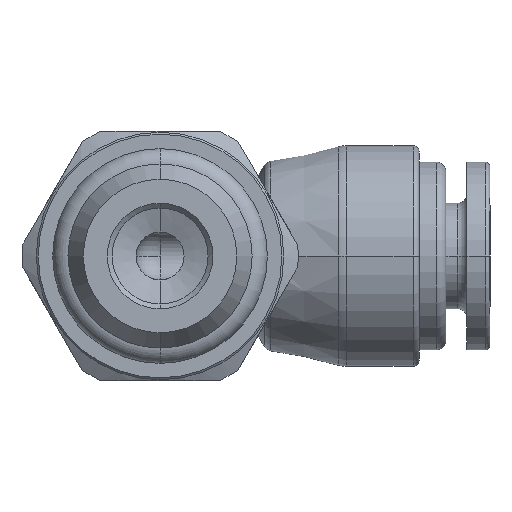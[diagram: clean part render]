
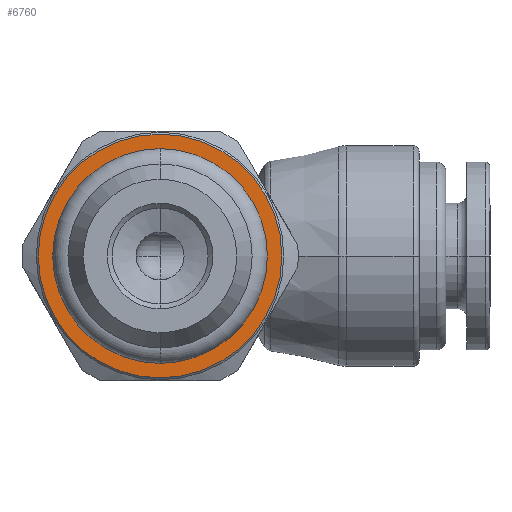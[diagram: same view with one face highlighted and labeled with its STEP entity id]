
A CAD part, front view. The second image highlights one B-rep face of the part: STEP entity #6760.
In plain terms, the highlighted planar face has unit normal (0, -1, 0).
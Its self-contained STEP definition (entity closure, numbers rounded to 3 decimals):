
#136 = CIRCLE ( 'NONE', #2044, 5.598 ) ;
#469 = CARTESIAN_POINT ( 'NONE',  ( 0., -20., -6.35 ) ) ;
#551 = CARTESIAN_POINT ( 'NONE',  ( 0., -20., 5.598 ) ) ;
#784 = CARTESIAN_POINT ( 'NONE',  ( 0., -20., 6.35 ) ) ;
#1276 = EDGE_CURVE ( 'NONE', #1419, #4470, #4945, .T. ) ;
#1419 = VERTEX_POINT ( 'NONE', #469 ) ;
#1476 = DIRECTION ( 'NONE',  ( 1., 0., 0. ) ) ;
#1480 = FACE_BOUND ( 'NONE', #6068, .T. ) ;
#1528 = AXIS2_PLACEMENT_3D ( 'NONE', #4593, #4667, #5447 ) ;
#1648 = DIRECTION ( 'NONE',  ( 0., 0., -1. ) ) ;
#1754 = PLANE ( 'NONE',  #2213 ) ;
#1920 = CARTESIAN_POINT ( 'NONE',  ( 0., -20., 0. ) ) ;
#1921 = EDGE_CURVE ( 'NONE', #2463, #6732, #5440, .T. ) ;
#1992 = CARTESIAN_POINT ( 'NONE',  ( 0., -20., -5.598 ) ) ;
#1995 = ORIENTED_EDGE ( 'NONE', *, *, #1921, .T. ) ;
#2044 = AXIS2_PLACEMENT_3D ( 'NONE', #4650, #2613, #1476 ) ;
#2213 = AXIS2_PLACEMENT_3D ( 'NONE', #5467, #6446, #5406 ) ;
#2337 = EDGE_CURVE ( 'NONE', #6732, #2463, #136, .T. ) ;
#2396 = DIRECTION ( 'NONE',  ( 0., 1., 0. ) ) ;
#2415 = CIRCLE ( 'NONE', #4861, 6.35 ) ;
#2463 = VERTEX_POINT ( 'NONE', #551 ) ;
#2501 = ORIENTED_EDGE ( 'NONE', *, *, #2337, .T. ) ;
#2613 = DIRECTION ( 'NONE',  ( 0., 1., 0. ) ) ;
#4317 = AXIS2_PLACEMENT_3D ( 'NONE', #1920, #2396, #4654 ) ;
#4470 = VERTEX_POINT ( 'NONE', #784 ) ;
#4593 = CARTESIAN_POINT ( 'NONE',  ( 0., -20., 0. ) ) ;
#4595 = ORIENTED_EDGE ( 'NONE', *, *, #1276, .T. ) ;
#4650 = CARTESIAN_POINT ( 'NONE',  ( 0., -20., 0. ) ) ;
#4654 = DIRECTION ( 'NONE',  ( 1., 0., 0. ) ) ;
#4667 = DIRECTION ( 'NONE',  ( 0., -1., 0. ) ) ;
#4776 = ORIENTED_EDGE ( 'NONE', *, *, #6213, .T. ) ;
#4861 = AXIS2_PLACEMENT_3D ( 'NONE', #6493, #5976, #1648 ) ;
#4945 = CIRCLE ( 'NONE', #1528, 6.35 ) ;
#5406 = DIRECTION ( 'NONE',  ( 1., 0., 0. ) ) ;
#5440 = CIRCLE ( 'NONE', #4317, 5.598 ) ;
#5447 = DIRECTION ( 'NONE',  ( 0., 0., -1. ) ) ;
#5467 = CARTESIAN_POINT ( 'NONE',  ( -3.023, -20., 0. ) ) ;
#5869 = EDGE_LOOP ( 'NONE', ( #4776, #4595 ) ) ;
#5976 = DIRECTION ( 'NONE',  ( 0., -1., 0. ) ) ;
#6068 = EDGE_LOOP ( 'NONE', ( #2501, #1995 ) ) ;
#6213 = EDGE_CURVE ( 'NONE', #4470, #1419, #2415, .T. ) ;
#6265 = FACE_OUTER_BOUND ( 'NONE', #5869, .T. ) ;
#6446 = DIRECTION ( 'NONE',  ( 0., -1., 0. ) ) ;
#6493 = CARTESIAN_POINT ( 'NONE',  ( 0., -20., 0. ) ) ;
#6732 = VERTEX_POINT ( 'NONE', #1992 ) ;
#6760 = ADVANCED_FACE ( 'NONE', ( #6265, #1480 ), #1754, .T. ) ;
